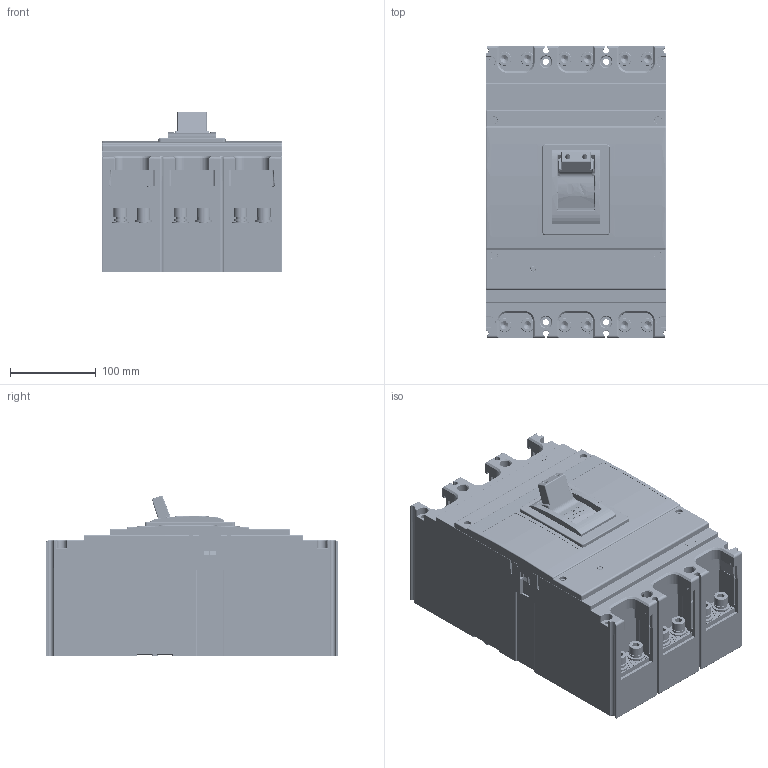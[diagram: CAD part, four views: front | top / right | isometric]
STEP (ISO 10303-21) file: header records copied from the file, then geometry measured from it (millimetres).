
FILE_DESCRIPTION(/* description */ (''),/* implementation_level */ '2;1');
FILE_NAME(/* name */ 'DLX-STM6-1600+DC6-2024.stp',/* time_stamp */ '2024-10-29T16:50:36+08:00',/* author */ (''),/* organization */ (''),/* preprocessor_version */ 'ST-DEVELOPER v11',/* originating_system */ 'SIEMENS UGS NX 6.0',/* authorisation */ '');
FILE_SCHEMA (('AUTOMOTIVE_DESIGN { 1 0 10303 214 1 1 1 1 }'));
Products named in the file (1): AdmiF89F3ceg
Bounding box: 210 x 340 x 187.13 mm (x, y, z)
Volume: 3549289.3 mm3; surface area: 1244590.3 mm2
Topology: 57 solids, 61 shells, 15255 faces, 38363 edges, 24914 vertices
Faces by surface type: plane 12786, cylinder 1675, sphere 261, cone 214, torus 161, bspline 144, extrusion 14
Full cylindrical faces by diameter (mm): 2.4 x4, 2.7 x2, 2.9 x1, 3 x1, 3.5 x2, 3.8 x5, 4 x2, 4.2 x4, 4.6 x1, 4.7 x5, 5 x7, 5.5 x19, 6 x8, 6.1 x10, 6.5 x24, 7 x8, 7.2 x20, 8 x2, 8.5 x6, 9 x4, 10 x11, 11 x15, 12 x17, 12.5 x6, 13 x8
Entity records: 530678 total; most frequent: CARTESIAN_POINT 88715, ORIENTED_EDGE 75326, DIRECTION 71478, EDGE_CURVE 37663, VECTOR 32850, LINE 32836, VERTEX_POINT 24779, AXIS2_PLACEMENT_3D 19314
